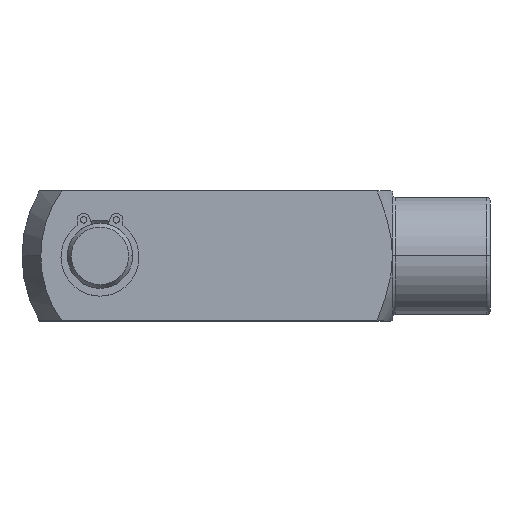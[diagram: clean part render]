
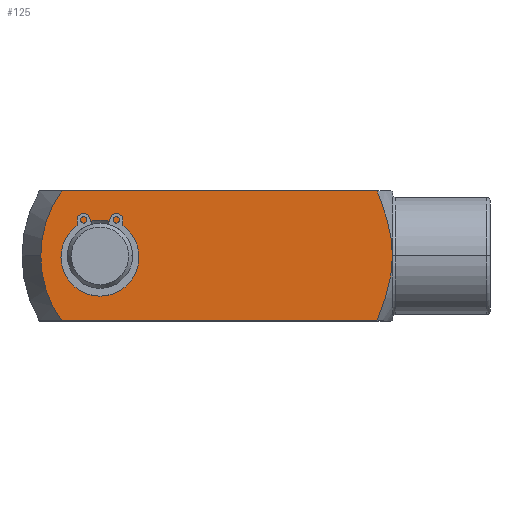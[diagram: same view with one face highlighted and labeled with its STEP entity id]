
A CAD part, top view. The second image highlights one B-rep face of the part: STEP entity #125.
In plain terms, the highlighted planar face has unit normal (0, 0, 1).
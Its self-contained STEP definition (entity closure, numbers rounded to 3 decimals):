
#115 = EDGE_LOOP ( 'NONE', ( #145, #160, #153, #154, #161, #170 ) ) ;
#116 = ORIENTED_EDGE ( 'NONE', *, *, #119, .T. ) ;
#118 = ORIENTED_EDGE ( 'NONE', *, *, #213, .T. ) ;
#119 = EDGE_CURVE ( 'NONE', #240, #242, #372, .T. ) ;
#125 = ADVANCED_FACE ( 'NONE', ( #426, #425 ), #424, .T. ) ;
#126 = EDGE_LOOP ( 'NONE', ( #118, #116 ) ) ;
#141 = VERTEX_POINT ( 'NONE', #458 ) ;
#144 = EDGE_CURVE ( 'NONE', #193, #148, #452, .T. ) ;
#145 = ORIENTED_EDGE ( 'NONE', *, *, #150, .F. ) ;
#148 = VERTEX_POINT ( 'NONE', #447 ) ;
#150 = EDGE_CURVE ( 'NONE', #157, #152, #445, .T. ) ;
#151 = EDGE_CURVE ( 'NONE', #141, #148, #493, .T. ) ;
#152 = VERTEX_POINT ( 'NONE', #494 ) ;
#153 = ORIENTED_EDGE ( 'NONE', *, *, #191, .T. ) ;
#154 = ORIENTED_EDGE ( 'NONE', *, *, #144, .T. ) ;
#155 = EDGE_CURVE ( 'NONE', #157, #192, #482, .T. ) ;
#157 = VERTEX_POINT ( 'NONE', #474 ) ;
#160 = ORIENTED_EDGE ( 'NONE', *, *, #155, .T. ) ;
#161 = ORIENTED_EDGE ( 'NONE', *, *, #151, .F. ) ;
#170 = ORIENTED_EDGE ( 'NONE', *, *, #173, .F. ) ;
#173 = EDGE_CURVE ( 'NONE', #152, #141, #524, .T. ) ;
#191 = EDGE_CURVE ( 'NONE', #192, #193, #536, .T. ) ;
#192 = VERTEX_POINT ( 'NONE', #528 ) ;
#193 = VERTEX_POINT ( 'NONE', #527 ) ;
#213 = EDGE_CURVE ( 'NONE', #242, #240, #616, .T. ) ;
#240 = VERTEX_POINT ( 'NONE', #620 ) ;
#242 = VERTEX_POINT ( 'NONE', #675 ) ;
#372 = CIRCLE ( 'NONE', #433, 5.5 ) ;
#373 = CARTESIAN_POINT ( 'NONE',  ( -60., 0., 10. ) ) ;
#419 = DIRECTION ( 'NONE',  ( 1., 0., 0. ) ) ;
#420 = DIRECTION ( 'NONE',  ( 0., 0., 1. ) ) ;
#421 = CARTESIAN_POINT ( 'NONE',  ( -72., -10., 10. ) ) ;
#423 = AXIS2_PLACEMENT_3D ( 'NONE', #421, #420, #419 ) ;
#424 = PLANE ( 'NONE',  #423 ) ;
#425 = FACE_OUTER_BOUND ( 'NONE', #115, .T. ) ;
#426 = FACE_BOUND ( 'NONE', #126, .T. ) ;
#431 = DIRECTION ( 'NONE',  ( 1., 0., 0. ) ) ;
#432 = DIRECTION ( 'NONE',  ( 0., 0., -1. ) ) ;
#433 = AXIS2_PLACEMENT_3D ( 'NONE', #373, #432, #431 ) ;
#434 = CARTESIAN_POINT ( 'NONE',  ( -72., 10., 10. ) ) ;
#443 = DIRECTION ( 'NONE',  ( 1., 0., 0. ) ) ;
#444 = VECTOR ( 'NONE', #443, 1000. ) ;
#445 = LINE ( 'NONE', #434, #444 ) ;
#447 = CARTESIAN_POINT ( 'NONE',  ( -17.391, -10., 10. ) ) ;
#449 = DIRECTION ( 'NONE',  ( 1., 0., 0. ) ) ;
#450 = VECTOR ( 'NONE', #449, 1000. ) ;
#451 = CARTESIAN_POINT ( 'NONE',  ( -72., -10., 10. ) ) ;
#452 = LINE ( 'NONE', #451, #450 ) ;
#458 = CARTESIAN_POINT ( 'NONE',  ( -15., 0., 10. ) ) ;
#474 = CARTESIAN_POINT ( 'NONE',  ( -65.888, 10., 10. ) ) ;
#478 = DIRECTION ( 'NONE',  ( 1., 0., 0. ) ) ;
#479 = DIRECTION ( 'NONE',  ( 0., 0., 1. ) ) ;
#480 = CARTESIAN_POINT ( 'NONE',  ( -52., 0., 10. ) ) ;
#481 = AXIS2_PLACEMENT_3D ( 'NONE', #480, #479, #478 ) ;
#482 = CIRCLE ( 'NONE', #481, 17.113 ) ;
#484 = CARTESIAN_POINT ( 'NONE',  ( -17.391, -10., 10. ) ) ;
#485 = CARTESIAN_POINT ( 'NONE',  ( -16.738, -8.398, 10. ) ) ;
#486 = CARTESIAN_POINT ( 'NONE',  ( -16.143, -6.761, 10. ) ) ;
#487 = CARTESIAN_POINT ( 'NONE',  ( -15.49, -4.269, 10. ) ) ;
#488 = CARTESIAN_POINT ( 'NONE',  ( -15.312, -3.431, 10. ) ) ;
#489 = CARTESIAN_POINT ( 'NONE',  ( -15.067, -1.732, 10. ) ) ;
#490 = CARTESIAN_POINT ( 'NONE',  ( -15., -0.873, 10. ) ) ;
#491 = CARTESIAN_POINT ( 'NONE',  ( -15., 0., 10. ) ) ;
#493 = B_SPLINE_CURVE_WITH_KNOTS ( 'NONE', 3,
 ( #491, #490, #489, #488, #487, #486, #485, #484 ),
 .UNSPECIFIED., .F., .F.,
 ( 4, 2, 2, 4 ),
 ( 0.04, 0.043, 0.046, 0.051 ),
 .UNSPECIFIED. ) ;
#494 = CARTESIAN_POINT ( 'NONE',  ( -17.391, 10., 10. ) ) ;
#509 = CARTESIAN_POINT ( 'NONE',  ( -15., 0., 10. ) ) ;
#510 = CARTESIAN_POINT ( 'NONE',  ( -15., 0.435, 10. ) ) ;
#511 = CARTESIAN_POINT ( 'NONE',  ( -15.017, 0.872, 10. ) ) ;
#512 = CARTESIAN_POINT ( 'NONE',  ( -15.081, 1.735, 10. ) ) ;
#513 = CARTESIAN_POINT ( 'NONE',  ( -15.129, 2.163, 10. ) ) ;
#514 = CARTESIAN_POINT ( 'NONE',  ( -15.313, 3.439, 10. ) ) ;
#515 = CARTESIAN_POINT ( 'NONE',  ( -15.492, 4.278, 10. ) ) ;
#516 = CARTESIAN_POINT ( 'NONE',  ( -15.928, 5.939, 10. ) ) ;
#517 = CARTESIAN_POINT ( 'NONE',  ( -16.186, 6.761, 10. ) ) ;
#518 = CARTESIAN_POINT ( 'NONE',  ( -16.755, 8.393, 10. ) ) ;
#519 = CARTESIAN_POINT ( 'NONE',  ( -17.066, 9.202, 10. ) ) ;
#520 = CARTESIAN_POINT ( 'NONE',  ( -17.391, 10., 10. ) ) ;
#524 = B_SPLINE_CURVE_WITH_KNOTS ( 'NONE', 3,
 ( #520, #519, #518, #517, #516, #515, #514, #513, #512, #511, #510, #509 ),
 .UNSPECIFIED., .F., .F.,
 ( 4, 2, 2, 2, 2, 4 ),
 ( 0.03, 0.033, 0.035, 0.038, 0.039, 0.04 ),
 .UNSPECIFIED. ) ;
#527 = CARTESIAN_POINT ( 'NONE',  ( -65.888, -10., 10. ) ) ;
#528 = CARTESIAN_POINT ( 'NONE',  ( -69.113, 0., 10. ) ) ;
#529 = DIRECTION ( 'NONE',  ( 1., 0., 0. ) ) ;
#530 = DIRECTION ( 'NONE',  ( 0., 0., 1. ) ) ;
#531 = CARTESIAN_POINT ( 'NONE',  ( -52., 0., 10. ) ) ;
#532 = AXIS2_PLACEMENT_3D ( 'NONE', #531, #530, #529 ) ;
#536 = CIRCLE ( 'NONE', #532, 17.113 ) ;
#612 = DIRECTION ( 'NONE',  ( 1., 0., 0. ) ) ;
#613 = DIRECTION ( 'NONE',  ( 0., 0., -1. ) ) ;
#614 = CARTESIAN_POINT ( 'NONE',  ( -60., 0., 10. ) ) ;
#615 = AXIS2_PLACEMENT_3D ( 'NONE', #614, #613, #612 ) ;
#616 = CIRCLE ( 'NONE', #615, 5.5 ) ;
#620 = CARTESIAN_POINT ( 'NONE',  ( -65.5, 0., 10. ) ) ;
#675 = CARTESIAN_POINT ( 'NONE',  ( -54.5, 0., 10. ) ) ;
